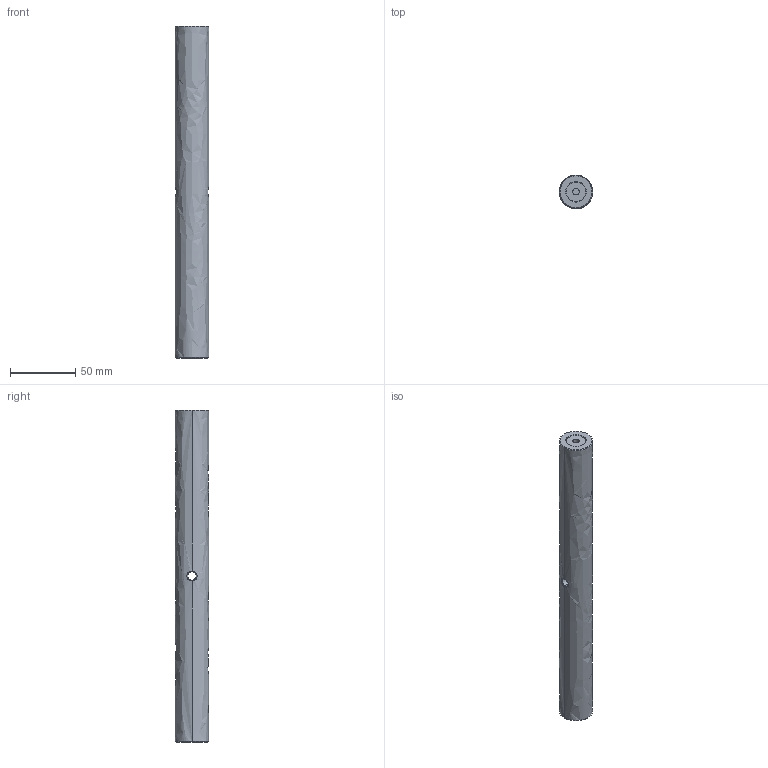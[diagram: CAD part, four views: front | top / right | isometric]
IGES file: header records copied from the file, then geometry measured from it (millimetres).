
Start section: 3D InterOp IGES (Version 21 0 3), Spatial Corp. Copyright (c) 1999-2007.
Global section: file name: export0.igs; native system: Spatial Corp.; preprocessor: 3D InterOp ACIS/IGES; author: Noname; organization: Noname; date: 20140203.222710; units: centimetre
Bounding box: 25.4 x 25.4 x 254 mm (x, y, z)
Surface area: 22476.5 mm2 (no closed solid volume)
Topology: 0 solids, 0 shells, 26 faces, 124 edges, 124 vertices
Faces by surface type: revolution 16, extrusion 6, bspline 4
